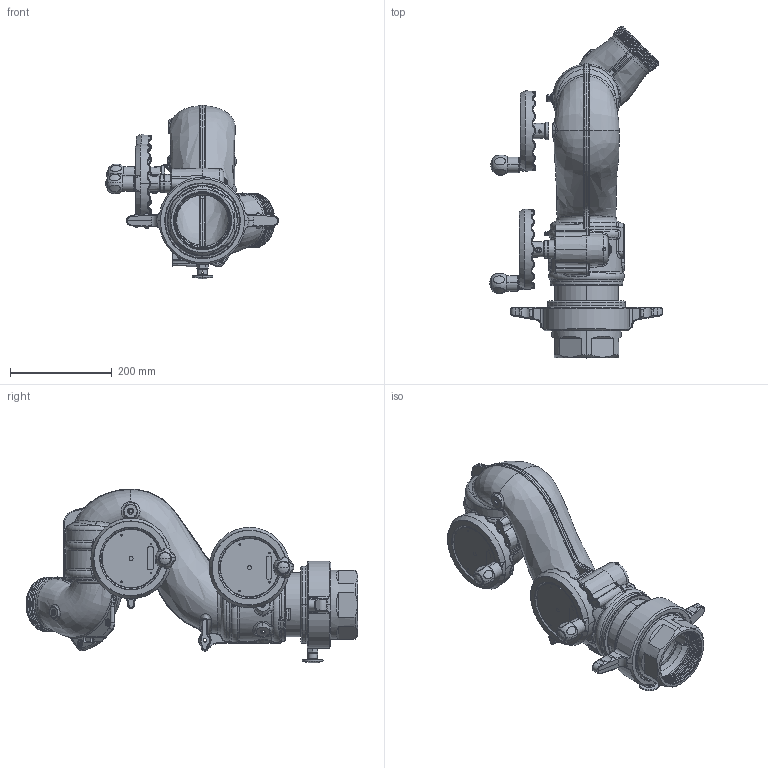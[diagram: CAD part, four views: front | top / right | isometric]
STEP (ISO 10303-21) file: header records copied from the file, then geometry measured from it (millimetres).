
FILE_DESCRIPTION (( 'STEP AP203' ), '1' );
FILE_NAME ('Y5-DS1A_45_Up.STEP', '2014-07-03T16:50:08', ( '' ), ( '' ), 'SwSTEP 2.0', 'SolidWorks 2014', '' );
FILE_SCHEMA (( 'CONFIG_CONTROL_DESIGN' ));
Products named in the file (1): Y5-DS1A_45_Up
Bounding box: 339.8 x 652.57 x 341.76 mm (x, y, z)
Surface area: 808507.9 mm2 (no closed solid volume)
Topology: 0 solids, 77 shells, 2288 faces, 6955 edges, 4536 vertices
Faces by surface type: bspline 690, cylinder 454, plane 393, torus 354, cone 346, sphere 51
Entity records: 181074 total; most frequent: CARTESIAN_POINT 126230, ORIENTED_EDGE 11562, DIRECTION 10256, EDGE_CURVE 6927, VERTEX_POINT 4532, AXIS2_PLACEMENT_3D 4340, CIRCLE 2741, B_SPLINE_CURVE_WITH_KNOTS 2429
